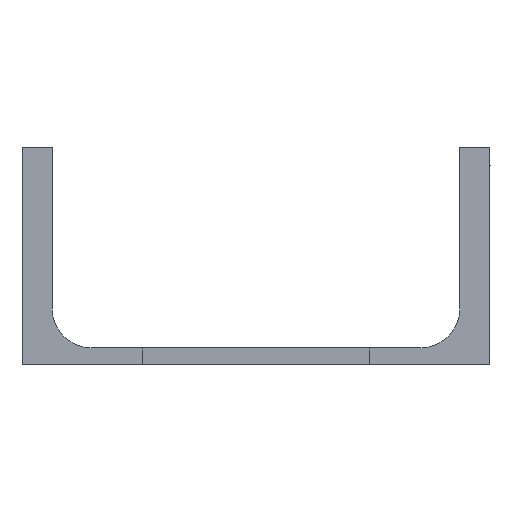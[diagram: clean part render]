
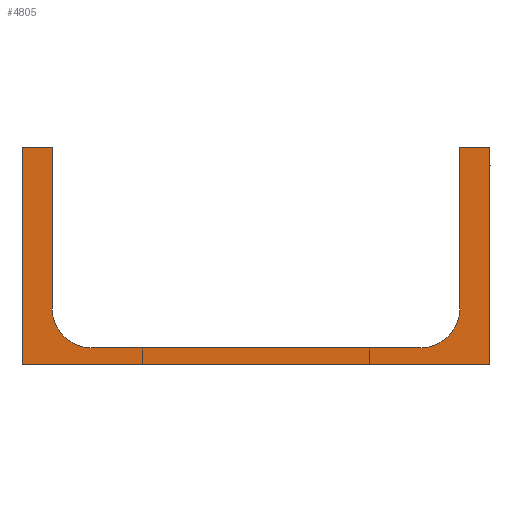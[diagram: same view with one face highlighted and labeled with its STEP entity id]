
A CAD part, left-side view. The second image highlights one B-rep face of the part: STEP entity #4805.
In plain terms, the highlighted planar face has unit normal (-1, 0, 0).
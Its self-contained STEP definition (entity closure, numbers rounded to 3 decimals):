
#65 = ORIENTED_EDGE ( 'NONE', *, *, #4207, .F. ) ;
#98 = CARTESIAN_POINT ( 'NONE',  ( 9060., 1970., 3860. ) ) ;
#296 = EDGE_LOOP ( 'NONE', ( #2834, #1649, #3497, #65, #2964, #3858, #2873, #1382, #1299, #4789 ) ) ;
#385 = VERTEX_POINT ( 'NONE', #1454 ) ;
#425 = VECTOR ( 'NONE', #2760, 1000. ) ;
#443 = DIRECTION ( 'NONE',  ( -1., 0., 0. ) ) ;
#528 = CARTESIAN_POINT ( 'NONE',  ( 9060., 1949., 3877. ) ) ;
#558 = VECTOR ( 'NONE', #3149, 1000. ) ;
#600 = DIRECTION ( 'NONE',  ( 0., 0., 1. ) ) ;
#792 = EDGE_CURVE ( 'NONE', #1463, #1084, #3346, .T. ) ;
#817 = EDGE_CURVE ( 'NONE', #1705, #1367, #3842, .T. ) ;
#822 = CARTESIAN_POINT ( 'NONE',  ( 9060., 1851., 3877. ) ) ;
#936 = LINE ( 'NONE', #3559, #425 ) ;
#1084 = VERTEX_POINT ( 'NONE', #2736 ) ;
#1116 = EDGE_CURVE ( 'NONE', #1695, #1440, #4191, .T. ) ;
#1203 = CARTESIAN_POINT ( 'NONE',  ( 9060., 1961., 3925. ) ) ;
#1292 = CARTESIAN_POINT ( 'NONE',  ( 9060., 1851., 3865. ) ) ;
#1299 = ORIENTED_EDGE ( 'NONE', *, *, #792, .F. ) ;
#1354 = VECTOR ( 'NONE', #4272, 1000. ) ;
#1367 = VERTEX_POINT ( 'NONE', #1292 ) ;
#1382 = ORIENTED_EDGE ( 'NONE', *, *, #1808, .F. ) ;
#1440 = VERTEX_POINT ( 'NONE', #4468 ) ;
#1441 = LINE ( 'NONE', #2595, #4249 ) ;
#1447 = AXIS2_PLACEMENT_3D ( 'NONE', #1717, #2473, #600 ) ;
#1454 = CARTESIAN_POINT ( 'NONE',  ( 9060., 1970., 3925. ) ) ;
#1463 = VERTEX_POINT ( 'NONE', #2693 ) ;
#1533 = CARTESIAN_POINT ( 'NONE',  ( 9060., 1839., 3925. ) ) ;
#1593 = CARTESIAN_POINT ( 'NONE',  ( 9060., 1830., 3860. ) ) ;
#1649 = ORIENTED_EDGE ( 'NONE', *, *, #1116, .F. ) ;
#1666 = AXIS2_PLACEMENT_3D ( 'NONE', #528, #3919, #3532 ) ;
#1695 = VERTEX_POINT ( 'NONE', #1593 ) ;
#1705 = VERTEX_POINT ( 'NONE', #4920 ) ;
#1717 = CARTESIAN_POINT ( 'NONE',  ( 9060., 1851., 3877. ) ) ;
#1808 = EDGE_CURVE ( 'NONE', #1084, #1705, #3036, .T. ) ;
#1827 = VECTOR ( 'NONE', #3251, 1000. ) ;
#1930 = AXIS2_PLACEMENT_3D ( 'NONE', #822, #443, #3549 ) ;
#2006 = PLANE ( 'NONE',  #1930 ) ;
#2033 = LINE ( 'NONE', #3574, #558 ) ;
#2092 = LINE ( 'NONE', #1203, #1827 ) ;
#2153 = VECTOR ( 'NONE', #3747, 1000. ) ;
#2217 = EDGE_CURVE ( 'NONE', #1440, #385, #2033, .T. ) ;
#2473 = DIRECTION ( 'NONE',  ( -1., 0., 0. ) ) ;
#2595 = CARTESIAN_POINT ( 'NONE',  ( 9060., 1830., 3860. ) ) ;
#2693 = CARTESIAN_POINT ( 'NONE',  ( 9060., 1961., 3925. ) ) ;
#2736 = CARTESIAN_POINT ( 'NONE',  ( 9060., 1961., 3877. ) ) ;
#2760 = DIRECTION ( 'NONE',  ( 0., -1., 0. ) ) ;
#2795 = CARTESIAN_POINT ( 'NONE',  ( 9060., 1830., 3925. ) ) ;
#2815 = VERTEX_POINT ( 'NONE', #1533 ) ;
#2834 = ORIENTED_EDGE ( 'NONE', *, *, #2217, .F. ) ;
#2873 = ORIENTED_EDGE ( 'NONE', *, *, #817, .F. ) ;
#2883 = LINE ( 'NONE', #2934, #4255 ) ;
#2934 = CARTESIAN_POINT ( 'NONE',  ( 9060., 1839., 3925. ) ) ;
#2964 = ORIENTED_EDGE ( 'NONE', *, *, #4385, .F. ) ;
#3036 = CIRCLE ( 'NONE', #1666, 12. ) ;
#3149 = DIRECTION ( 'NONE',  ( 0., 0., 1. ) ) ;
#3161 = CARTESIAN_POINT ( 'NONE',  ( 9060., 1851., 3865. ) ) ;
#3199 = EDGE_CURVE ( 'NONE', #1367, #4739, #3604, .T. ) ;
#3231 = EDGE_CURVE ( 'NONE', #385, #1463, #2092, .T. ) ;
#3251 = DIRECTION ( 'NONE',  ( 0., -1., 0. ) ) ;
#3346 = LINE ( 'NONE', #4495, #2153 ) ;
#3497 = ORIENTED_EDGE ( 'NONE', *, *, #3502, .F. ) ;
#3502 = EDGE_CURVE ( 'NONE', #4841, #1695, #1441, .T. ) ;
#3532 = DIRECTION ( 'NONE',  ( 0., 0., 1. ) ) ;
#3549 = DIRECTION ( 'NONE',  ( 0., 0., 1. ) ) ;
#3559 = CARTESIAN_POINT ( 'NONE',  ( 9060., 1830., 3925. ) ) ;
#3574 = CARTESIAN_POINT ( 'NONE',  ( 9060., 1970., 3925. ) ) ;
#3604 = CIRCLE ( 'NONE', #1447, 12. ) ;
#3638 = DIRECTION ( 'NONE',  ( 0., -1., 0. ) ) ;
#3747 = DIRECTION ( 'NONE',  ( 0., 0., -1. ) ) ;
#3842 = LINE ( 'NONE', #3161, #4069 ) ;
#3858 = ORIENTED_EDGE ( 'NONE', *, *, #3199, .F. ) ;
#3919 = DIRECTION ( 'NONE',  ( -1., 0., 0. ) ) ;
#4069 = VECTOR ( 'NONE', #3638, 1000. ) ;
#4092 = DIRECTION ( 'NONE',  ( 0., 0., -1. ) ) ;
#4191 = LINE ( 'NONE', #98, #1354 ) ;
#4207 = EDGE_CURVE ( 'NONE', #2815, #4841, #936, .T. ) ;
#4249 = VECTOR ( 'NONE', #4092, 1000. ) ;
#4255 = VECTOR ( 'NONE', #4478, 1000. ) ;
#4272 = DIRECTION ( 'NONE',  ( 0., 1., 0. ) ) ;
#4343 = FACE_OUTER_BOUND ( 'NONE', #296, .T. ) ;
#4385 = EDGE_CURVE ( 'NONE', #4739, #2815, #2883, .T. ) ;
#4468 = CARTESIAN_POINT ( 'NONE',  ( 9060., 1970., 3860. ) ) ;
#4478 = DIRECTION ( 'NONE',  ( 0., 0., 1. ) ) ;
#4495 = CARTESIAN_POINT ( 'NONE',  ( 9060., 1961., 3877. ) ) ;
#4739 = VERTEX_POINT ( 'NONE', #4821 ) ;
#4789 = ORIENTED_EDGE ( 'NONE', *, *, #3231, .F. ) ;
#4805 = ADVANCED_FACE ( 'NONE', ( #4343 ), #2006, .T. ) ;
#4821 = CARTESIAN_POINT ( 'NONE',  ( 9060., 1839., 3877. ) ) ;
#4841 = VERTEX_POINT ( 'NONE', #2795 ) ;
#4920 = CARTESIAN_POINT ( 'NONE',  ( 9060., 1949., 3865. ) ) ;
